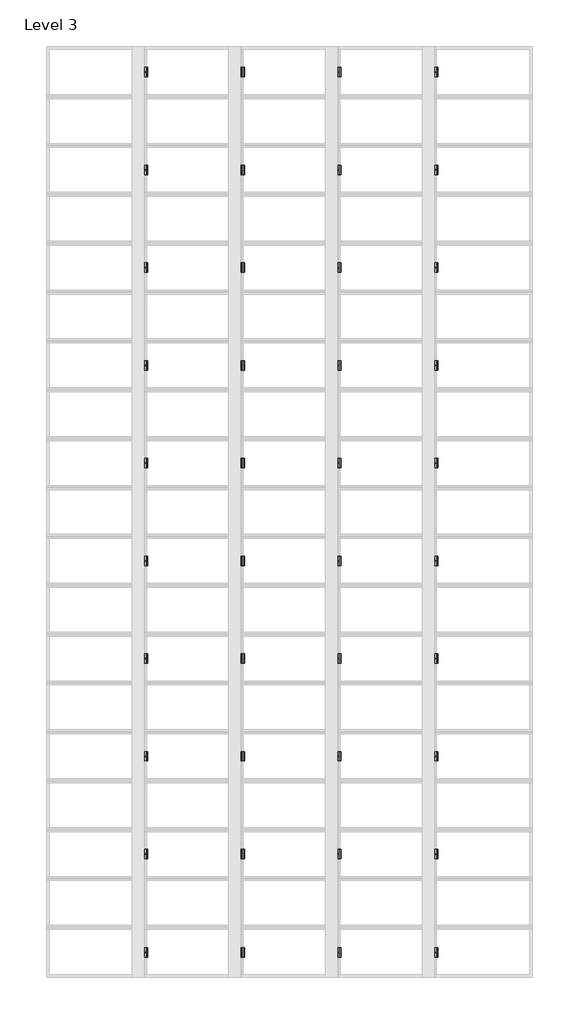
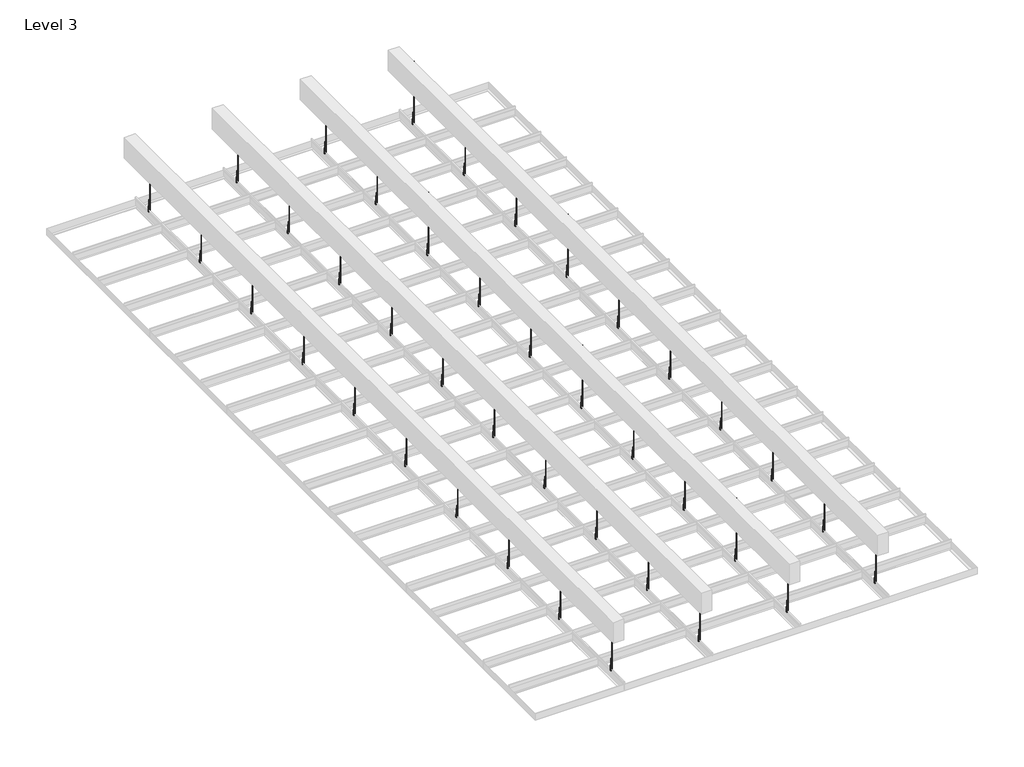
# One storey, part 2 of 2: 80 proxies.
"""IFC4 building model written with IfcOpenShell, lengths in millimetres."""

from ifc_helpers import new_model, si_unit, origin, place, context, project, spatial, transform, mapped, element, save
from components import generic_models_30e69ff4, generic_models_ea6e69d7, generic_models_2637090a, generic_models_7087057a, generic_models_22061ccc, generic_models_6631cd60, generic_models_b129b2ce, generic_models_5d799848, generic_models_c1631bf7, generic_models_b8af8917, generic_models_4601ddb1, generic_models_41f4955b, generic_models_f47540d4, generic_models_d7e25b7b, generic_models_15d2a3b0, generic_models_6ec0f59a, generic_models_a436a1e3, generic_models_0d2f1665, generic_models_3031afbb, generic_models_487557fa, generic_models_e8411314, generic_models_ef73581c, generic_models_94454468, generic_models_312ab789, generic_models_1e27622a, generic_models_7c0987e7, generic_models_7d2c6af9, generic_models_a9732f75, generic_models_f2a02704, generic_models_220f91b8, generic_models_c5d6954f, generic_models_84ba3c52, generic_models_ac5d71cc, generic_models_f1c45e2f, generic_models_49fdf278, generic_models_908b17a9, generic_models_a93aa4b5, generic_models_f5dd13b4, generic_models_6529b936, generic_models_776e6ab7, stud_1_stud_1_42a6b7a6, stud_10_stud_1_f9c7235b, stud_11_stud_1_e0a150c1, stud_12_stud_1_13a185cc, stud_13_stud_1_08e3559b, stud_14_stud_1_983f5c94, stud_15_stud_1_7fefd709, stud_16_stud_1_de291fa9, stud_17_stud_1_2ffbea10, stud_18_stud_1_0962ca89, stud_19_stud_1_fe36b6ed, stud_2_stud_1_6b914506, stud_20_stud_1_3f2360c5, stud_21_stud_1_4416dd86, stud_22_stud_1_c9112a40, stud_23_stud_1_22d17ae9, stud_24_stud_1_f3d8cce4, stud_25_stud_1_9dbdf446, stud_26_stud_1_3bea2599, stud_27_stud_1_aca50336, stud_28_stud_1_dbbdfaf3, stud_29_stud_1_5b82ace0, stud_3_stud_1_37971eae, stud_30_stud_1_ab73d0b4, stud_31_stud_1_9c334b2f, stud_32_stud_1_0430b82f, stud_33_stud_1_54817578, stud_34_stud_1_58c9755f, stud_35_stud_1_98c25c34, stud_36_stud_1_ed0e4c24, stud_37_stud_1_0b9a7b89, stud_38_stud_1_47fd398a, stud_39_stud_1_f72afb3a, stud_4_stud_1_5cc35882, stud_40_stud_1_60232da7, stud_5_stud_1_151b5730, stud_6_stud_1_164642b2, stud_7_stud_1_3cf8c35f, stud_8_stud_1_bdf7d431, stud_9_stud_1_8950ac6e

model = new_model("IFC4")

# Units and contexts
model_context = context("Model", 3, world=origin())
ifc_project = project(units=[si_unit("LENGTHUNIT", "METRE", prefix="MILLI")], contexts=[model_context])

# Site, building, storey
site = spatial("IfcSite", under=ifc_project)
building = spatial("IfcBuilding", under=site)
storey = spatial("IfcBuildingStorey", under=building, Name="Level 3", Elevation=3355.6966054)

# Proxies
placement = place(None, origin())
generic_models_shape = generic_models_30e69ff4(model_context)
element("IfcBuildingElementProxy", 1, Name="Mechanical Fittings & Accessories19 : Mechanical Fittings & Accessories", ObjectType="Mechanical Fittings & Accessories19 : Mechanical Fittings & Accessories", at=placement, inside=storey, context=model_context, shape_type="MappedRepresentation", body=[
    mapped(generic_models_shape, transform((2133.6, -412.6507813, 0.0), x_axis=(1.0, 0.0, 0.0), y_axis=(0.0, 1.0, 0.0), z_axis=(0.0, 0.0, 1.0))),
])
generic_models_2_shape = generic_models_ea6e69d7(model_context)
element("IfcBuildingElementProxy", 2, Name="Mechanical Fittings & Accessories1 : Mechanical Fittings & Accessories", ObjectType="Mechanical Fittings & Accessories1 : Mechanical Fittings & Accessories", at=placement, inside=storey, context=model_context, shape_type="MappedRepresentation", body=[
    mapped(generic_models_2_shape, transform((2133.6, -412.6507813, 0.0), x_axis=(1.0, 0.0, 0.0), y_axis=(0.0, 1.0, 0.0), z_axis=(0.0, 0.0, 1.0))),
])
generic_models_3_shape = generic_models_2637090a(model_context)
element("IfcBuildingElementProxy", 3, Name="Mechanical Fittings & Accessories2 : Mechanical Fittings & Accessories", ObjectType="Mechanical Fittings & Accessories2 : Mechanical Fittings & Accessories", at=placement, inside=storey, context=model_context, shape_type="MappedRepresentation", body=[
    mapped(generic_models_3_shape, transform((2133.6, -412.6507813, 0.0), x_axis=(1.0, 0.0, 0.0), y_axis=(0.0, 1.0, 0.0), z_axis=(0.0, 0.0, 1.0))),
])
generic_models_4_shape = generic_models_7087057a(model_context)
element("IfcBuildingElementProxy", 4, Name="Mechanical Fittings & Accessories3 : Mechanical Fittings & Accessories", ObjectType="Mechanical Fittings & Accessories3 : Mechanical Fittings & Accessories", at=placement, inside=storey, context=model_context, shape_type="MappedRepresentation", body=[
    mapped(generic_models_4_shape, transform((2133.6, -412.6507813, 0.0), x_axis=(1.0, 0.0, 0.0), y_axis=(0.0, 1.0, 0.0), z_axis=(0.0, 0.0, 1.0))),
])
generic_models_5_shape = generic_models_22061ccc(model_context)
element("IfcBuildingElementProxy", 5, Name="Mechanical Fittings & Accessories4 : Mechanical Fittings & Accessories", ObjectType="Mechanical Fittings & Accessories4 : Mechanical Fittings & Accessories", at=placement, inside=storey, context=model_context, shape_type="MappedRepresentation", body=[
    mapped(generic_models_5_shape, transform((2133.6, -412.6507813, 0.0), x_axis=(1.0, 0.0, 0.0), y_axis=(0.0, 1.0, 0.0), z_axis=(0.0, 0.0, 1.0))),
])
generic_models_6_shape = generic_models_6631cd60(model_context)
element("IfcBuildingElementProxy", 6, Name="Mechanical Fittings & Accessories5 : Mechanical Fittings & Accessories", ObjectType="Mechanical Fittings & Accessories5 : Mechanical Fittings & Accessories", at=placement, inside=storey, context=model_context, shape_type="MappedRepresentation", body=[
    mapped(generic_models_6_shape, transform((2133.6, -412.6507813, 0.0), x_axis=(1.0, 0.0, 0.0), y_axis=(0.0, 1.0, 0.0), z_axis=(0.0, 0.0, 1.0))),
])
generic_models_7_shape = generic_models_b129b2ce(model_context)
element("IfcBuildingElementProxy", 7, Name="Mechanical Fittings & Accessories6 : Mechanical Fittings & Accessories", ObjectType="Mechanical Fittings & Accessories6 : Mechanical Fittings & Accessories", at=placement, inside=storey, context=model_context, shape_type="MappedRepresentation", body=[
    mapped(generic_models_7_shape, transform((2133.6, -412.6507813, 0.0), x_axis=(1.0, 0.0, 0.0), y_axis=(0.0, 1.0, 0.0), z_axis=(0.0, 0.0, 1.0))),
])
generic_models_8_shape = generic_models_5d799848(model_context)
element("IfcBuildingElementProxy", 8, Name="Mechanical Fittings & Accessories7 : Mechanical Fittings & Accessories", ObjectType="Mechanical Fittings & Accessories7 : Mechanical Fittings & Accessories", at=placement, inside=storey, context=model_context, shape_type="MappedRepresentation", body=[
    mapped(generic_models_8_shape, transform((2133.6, -412.6507813, 0.0), x_axis=(1.0, 0.0, 0.0), y_axis=(0.0, 1.0, 0.0), z_axis=(0.0, 0.0, 1.0))),
])
generic_models_9_shape = generic_models_c1631bf7(model_context)
element("IfcBuildingElementProxy", 9, Name="Mechanical Fittings & Accessories8 : Mechanical Fittings & Accessories", ObjectType="Mechanical Fittings & Accessories8 : Mechanical Fittings & Accessories", at=placement, inside=storey, context=model_context, shape_type="MappedRepresentation", body=[
    mapped(generic_models_9_shape, transform((2133.6, -412.6507813, 0.0), x_axis=(1.0, 0.0, 0.0), y_axis=(0.0, 1.0, 0.0), z_axis=(0.0, 0.0, 1.0))),
])
generic_models_10_shape = generic_models_b8af8917(model_context)
element("IfcBuildingElementProxy", 10, Name="Mechanical Fittings & Accessories9 : Mechanical Fittings & Accessories", ObjectType="Mechanical Fittings & Accessories9 : Mechanical Fittings & Accessories", at=placement, inside=storey, context=model_context, shape_type="MappedRepresentation", body=[
    mapped(generic_models_10_shape, transform((2133.6, -412.6507813, 0.0), x_axis=(1.0, 0.0, 0.0), y_axis=(0.0, 1.0, 0.0), z_axis=(0.0, 0.0, 1.0))),
])
generic_models_11_shape = generic_models_4601ddb1(model_context)
element("IfcBuildingElementProxy", 11, Name="Mechanical Fittings & Accessories10 : Mechanical Fittings & Accessories", ObjectType="Mechanical Fittings & Accessories10 : Mechanical Fittings & Accessories", at=placement, inside=storey, context=model_context, shape_type="MappedRepresentation", body=[
    mapped(generic_models_11_shape, transform((2133.6, -412.6507813, 0.0), x_axis=(1.0, 0.0, 0.0), y_axis=(0.0, 1.0, 0.0), z_axis=(0.0, 0.0, 1.0))),
])
generic_models_12_shape = generic_models_41f4955b(model_context)
element("IfcBuildingElementProxy", 12, Name="Mechanical Fittings & Accessories11 : Mechanical Fittings & Accessories", ObjectType="Mechanical Fittings & Accessories11 : Mechanical Fittings & Accessories", at=placement, inside=storey, context=model_context, shape_type="MappedRepresentation", body=[
    mapped(generic_models_12_shape, transform((2133.6, -412.6507813, 0.0), x_axis=(1.0, 0.0, 0.0), y_axis=(0.0, 1.0, 0.0), z_axis=(0.0, 0.0, 1.0))),
])
generic_models_13_shape = generic_models_f47540d4(model_context)
element("IfcBuildingElementProxy", 13, Name="Mechanical Fittings & Accessories12 : Mechanical Fittings & Accessories", ObjectType="Mechanical Fittings & Accessories12 : Mechanical Fittings & Accessories", at=placement, inside=storey, context=model_context, shape_type="MappedRepresentation", body=[
    mapped(generic_models_13_shape, transform((2133.6, -412.6507813, 0.0), x_axis=(1.0, 0.0, 0.0), y_axis=(0.0, 1.0, 0.0), z_axis=(0.0, 0.0, 1.0))),
])
generic_models_14_shape = generic_models_d7e25b7b(model_context)
element("IfcBuildingElementProxy", 14, Name="Mechanical Fittings & Accessories13 : Mechanical Fittings & Accessories", ObjectType="Mechanical Fittings & Accessories13 : Mechanical Fittings & Accessories", at=placement, inside=storey, context=model_context, shape_type="MappedRepresentation", body=[
    mapped(generic_models_14_shape, transform((2133.6, -412.6507813, 0.0), x_axis=(1.0, 0.0, 0.0), y_axis=(0.0, 1.0, 0.0), z_axis=(0.0, 0.0, 1.0))),
])
generic_models_15_shape = generic_models_15d2a3b0(model_context)
element("IfcBuildingElementProxy", 15, Name="Mechanical Fittings & Accessories14 : Mechanical Fittings & Accessories", ObjectType="Mechanical Fittings & Accessories14 : Mechanical Fittings & Accessories", at=placement, inside=storey, context=model_context, shape_type="MappedRepresentation", body=[
    mapped(generic_models_15_shape, transform((2133.6, -412.6507813, 0.0), x_axis=(1.0, 0.0, 0.0), y_axis=(0.0, 1.0, 0.0), z_axis=(0.0, 0.0, 1.0))),
])
generic_models_16_shape = generic_models_6ec0f59a(model_context)
element("IfcBuildingElementProxy", 16, Name="Mechanical Fittings & Accessories15 : Mechanical Fittings & Accessories", ObjectType="Mechanical Fittings & Accessories15 : Mechanical Fittings & Accessories", at=placement, inside=storey, context=model_context, shape_type="MappedRepresentation", body=[
    mapped(generic_models_16_shape, transform((2133.6, -412.6507813, 0.0), x_axis=(1.0, 0.0, 0.0), y_axis=(0.0, 1.0, 0.0), z_axis=(0.0, 0.0, 1.0))),
])
generic_models_17_shape = generic_models_a436a1e3(model_context)
element("IfcBuildingElementProxy", 17, Name="Mechanical Fittings & Accessories16 : Mechanical Fittings & Accessories", ObjectType="Mechanical Fittings & Accessories16 : Mechanical Fittings & Accessories", at=placement, inside=storey, context=model_context, shape_type="MappedRepresentation", body=[
    mapped(generic_models_17_shape, transform((2133.6, -412.6507813, 0.0), x_axis=(1.0, 0.0, 0.0), y_axis=(0.0, 1.0, 0.0), z_axis=(0.0, 0.0, 1.0))),
])
generic_models_18_shape = generic_models_0d2f1665(model_context)
element("IfcBuildingElementProxy", 18, Name="Mechanical Fittings & Accessories17 : Mechanical Fittings & Accessories", ObjectType="Mechanical Fittings & Accessories17 : Mechanical Fittings & Accessories", at=placement, inside=storey, context=model_context, shape_type="MappedRepresentation", body=[
    mapped(generic_models_18_shape, transform((2133.6, -412.6507813, 0.0), x_axis=(1.0, 0.0, 0.0), y_axis=(0.0, 1.0, 0.0), z_axis=(0.0, 0.0, 1.0))),
])
generic_models_19_shape = generic_models_3031afbb(model_context)
element("IfcBuildingElementProxy", 19, Name="Mechanical Fittings & Accessories18 : Mechanical Fittings & Accessories", ObjectType="Mechanical Fittings & Accessories18 : Mechanical Fittings & Accessories", at=placement, inside=storey, context=model_context, shape_type="MappedRepresentation", body=[
    mapped(generic_models_19_shape, transform((2133.6, -412.6507813, 0.0), x_axis=(1.0, 0.0, 0.0), y_axis=(0.0, 1.0, 0.0), z_axis=(0.0, 0.0, 1.0))),
])
generic_models_20_shape = generic_models_487557fa(model_context)
element("IfcBuildingElementProxy", 20, Name="Mechanical Fittings & Accessories20 : Mechanical Fittings & Accessories", ObjectType="Mechanical Fittings & Accessories20 : Mechanical Fittings & Accessories", at=placement, inside=storey, context=model_context, shape_type="MappedRepresentation", body=[
    mapped(generic_models_20_shape, transform((2133.6, -412.6507813, 0.0), x_axis=(1.0, 0.0, 0.0), y_axis=(0.0, 1.0, 0.0), z_axis=(0.0, 0.0, 1.0))),
])
generic_models_21_shape = generic_models_e8411314(model_context)
element("IfcBuildingElementProxy", 21, Name="Mechanical Fittings & Accessories21 : Mechanical Fittings & Accessories", ObjectType="Mechanical Fittings & Accessories21 : Mechanical Fittings & Accessories", at=placement, inside=storey, context=model_context, shape_type="MappedRepresentation", body=[
    mapped(generic_models_21_shape, transform((2133.6, -412.6507813, 0.0), x_axis=(1.0, 0.0, 0.0), y_axis=(0.0, 1.0, 0.0), z_axis=(0.0, 0.0, 1.0))),
])
generic_models_22_shape = generic_models_ef73581c(model_context)
element("IfcBuildingElementProxy", 22, Name="Mechanical Fittings & Accessories22 : Mechanical Fittings & Accessories", ObjectType="Mechanical Fittings & Accessories22 : Mechanical Fittings & Accessories", at=placement, inside=storey, context=model_context, shape_type="MappedRepresentation", body=[
    mapped(generic_models_22_shape, transform((2133.6, -412.6507813, 0.0), x_axis=(1.0, 0.0, 0.0), y_axis=(0.0, 1.0, 0.0), z_axis=(0.0, 0.0, 1.0))),
])
generic_models_23_shape = generic_models_94454468(model_context)
element("IfcBuildingElementProxy", 23, Name="Mechanical Fittings & Accessories23 : Mechanical Fittings & Accessories", ObjectType="Mechanical Fittings & Accessories23 : Mechanical Fittings & Accessories", at=placement, inside=storey, context=model_context, shape_type="MappedRepresentation", body=[
    mapped(generic_models_23_shape, transform((2133.6, -412.6507813, 0.0), x_axis=(1.0, 0.0, 0.0), y_axis=(0.0, 1.0, 0.0), z_axis=(0.0, 0.0, 1.0))),
])
generic_models_24_shape = generic_models_312ab789(model_context)
element("IfcBuildingElementProxy", 24, Name="Mechanical Fittings & Accessories24 : Mechanical Fittings & Accessories", ObjectType="Mechanical Fittings & Accessories24 : Mechanical Fittings & Accessories", at=placement, inside=storey, context=model_context, shape_type="MappedRepresentation", body=[
    mapped(generic_models_24_shape, transform((2133.6, -412.6507813, 0.0), x_axis=(1.0, 0.0, 0.0), y_axis=(0.0, 1.0, 0.0), z_axis=(0.0, 0.0, 1.0))),
])
generic_models_25_shape = generic_models_1e27622a(model_context)
element("IfcBuildingElementProxy", 25, Name="Mechanical Fittings & Accessories25 : Mechanical Fittings & Accessories", ObjectType="Mechanical Fittings & Accessories25 : Mechanical Fittings & Accessories", at=placement, inside=storey, context=model_context, shape_type="MappedRepresentation", body=[
    mapped(generic_models_25_shape, transform((2133.6, -412.6507813, 0.0), x_axis=(1.0, 0.0, 0.0), y_axis=(0.0, 1.0, 0.0), z_axis=(0.0, 0.0, 1.0))),
])
generic_models_26_shape = generic_models_7c0987e7(model_context)
element("IfcBuildingElementProxy", 26, Name="Mechanical Fittings & Accessories26 : Mechanical Fittings & Accessories", ObjectType="Mechanical Fittings & Accessories26 : Mechanical Fittings & Accessories", at=placement, inside=storey, context=model_context, shape_type="MappedRepresentation", body=[
    mapped(generic_models_26_shape, transform((2133.6, -412.6507813, 0.0), x_axis=(1.0, 0.0, 0.0), y_axis=(0.0, 1.0, 0.0), z_axis=(0.0, 0.0, 1.0))),
])
generic_models_27_shape = generic_models_7d2c6af9(model_context)
element("IfcBuildingElementProxy", 27, Name="Mechanical Fittings & Accessories27 : Mechanical Fittings & Accessories", ObjectType="Mechanical Fittings & Accessories27 : Mechanical Fittings & Accessories", at=placement, inside=storey, context=model_context, shape_type="MappedRepresentation", body=[
    mapped(generic_models_27_shape, transform((2133.6, -412.6507813, 0.0), x_axis=(1.0, 0.0, 0.0), y_axis=(0.0, 1.0, 0.0), z_axis=(0.0, 0.0, 1.0))),
])
generic_models_28_shape = generic_models_a9732f75(model_context)
element("IfcBuildingElementProxy", 28, Name="Mechanical Fittings & Accessories28 : Mechanical Fittings & Accessories", ObjectType="Mechanical Fittings & Accessories28 : Mechanical Fittings & Accessories", at=placement, inside=storey, context=model_context, shape_type="MappedRepresentation", body=[
    mapped(generic_models_28_shape, transform((2133.6, -412.6507813, 0.0), x_axis=(1.0, 0.0, 0.0), y_axis=(0.0, 1.0, 0.0), z_axis=(0.0, 0.0, 1.0))),
])
generic_models_29_shape = generic_models_f2a02704(model_context)
element("IfcBuildingElementProxy", 29, Name="Mechanical Fittings & Accessories29 : Mechanical Fittings & Accessories", ObjectType="Mechanical Fittings & Accessories29 : Mechanical Fittings & Accessories", at=placement, inside=storey, context=model_context, shape_type="MappedRepresentation", body=[
    mapped(generic_models_29_shape, transform((2133.6, -412.6507813, 0.0), x_axis=(1.0, 0.0, 0.0), y_axis=(0.0, 1.0, 0.0), z_axis=(0.0, 0.0, 1.0))),
])
generic_models_30_shape = generic_models_220f91b8(model_context)
element("IfcBuildingElementProxy", 30, Name="Mechanical Fittings & Accessories30 : Mechanical Fittings & Accessories", ObjectType="Mechanical Fittings & Accessories30 : Mechanical Fittings & Accessories", at=placement, inside=storey, context=model_context, shape_type="MappedRepresentation", body=[
    mapped(generic_models_30_shape, transform((2133.6, -412.6507813, 0.0), x_axis=(1.0, 0.0, 0.0), y_axis=(0.0, 1.0, 0.0), z_axis=(0.0, 0.0, 1.0))),
])
generic_models_31_shape = generic_models_c5d6954f(model_context)
element("IfcBuildingElementProxy", 31, Name="Mechanical Fittings & Accessories31 : Mechanical Fittings & Accessories", ObjectType="Mechanical Fittings & Accessories31 : Mechanical Fittings & Accessories", at=placement, inside=storey, context=model_context, shape_type="MappedRepresentation", body=[
    mapped(generic_models_31_shape, transform((2133.6, -412.6507813, 0.0), x_axis=(1.0, 0.0, 0.0), y_axis=(0.0, 1.0, 0.0), z_axis=(0.0, 0.0, 1.0))),
])
generic_models_32_shape = generic_models_84ba3c52(model_context)
element("IfcBuildingElementProxy", 32, Name="Mechanical Fittings & Accessories32 : Mechanical Fittings & Accessories", ObjectType="Mechanical Fittings & Accessories32 : Mechanical Fittings & Accessories", at=placement, inside=storey, context=model_context, shape_type="MappedRepresentation", body=[
    mapped(generic_models_32_shape, transform((2133.6, -412.6507813, 0.0), x_axis=(1.0, 0.0, 0.0), y_axis=(0.0, 1.0, 0.0), z_axis=(0.0, 0.0, 1.0))),
])
generic_models_33_shape = generic_models_ac5d71cc(model_context)
element("IfcBuildingElementProxy", 33, Name="Mechanical Fittings & Accessories33 : Mechanical Fittings & Accessories", ObjectType="Mechanical Fittings & Accessories33 : Mechanical Fittings & Accessories", at=placement, inside=storey, context=model_context, shape_type="MappedRepresentation", body=[
    mapped(generic_models_33_shape, transform((2133.6, -412.6507813, 0.0), x_axis=(1.0, 0.0, 0.0), y_axis=(0.0, 1.0, 0.0), z_axis=(0.0, 0.0, 1.0))),
])
generic_models_34_shape = generic_models_f1c45e2f(model_context)
element("IfcBuildingElementProxy", 34, Name="Mechanical Fittings & Accessories34 : Mechanical Fittings & Accessories", ObjectType="Mechanical Fittings & Accessories34 : Mechanical Fittings & Accessories", at=placement, inside=storey, context=model_context, shape_type="MappedRepresentation", body=[
    mapped(generic_models_34_shape, transform((2133.6, -412.6507813, 0.0), x_axis=(1.0, 0.0, 0.0), y_axis=(0.0, 1.0, 0.0), z_axis=(0.0, 0.0, 1.0))),
])
generic_models_35_shape = generic_models_49fdf278(model_context)
element("IfcBuildingElementProxy", 35, Name="Mechanical Fittings & Accessories35 : Mechanical Fittings & Accessories", ObjectType="Mechanical Fittings & Accessories35 : Mechanical Fittings & Accessories", at=placement, inside=storey, context=model_context, shape_type="MappedRepresentation", body=[
    mapped(generic_models_35_shape, transform((2133.6, -412.6507813, 0.0), x_axis=(1.0, 0.0, 0.0), y_axis=(0.0, 1.0, 0.0), z_axis=(0.0, 0.0, 1.0))),
])
generic_models_36_shape = generic_models_908b17a9(model_context)
element("IfcBuildingElementProxy", 36, Name="Mechanical Fittings & Accessories36 : Mechanical Fittings & Accessories", ObjectType="Mechanical Fittings & Accessories36 : Mechanical Fittings & Accessories", at=placement, inside=storey, context=model_context, shape_type="MappedRepresentation", body=[
    mapped(generic_models_36_shape, transform((2133.6, -412.6507813, 0.0), x_axis=(1.0, 0.0, 0.0), y_axis=(0.0, 1.0, 0.0), z_axis=(0.0, 0.0, 1.0))),
])
generic_models_37_shape = generic_models_a93aa4b5(model_context)
element("IfcBuildingElementProxy", 37, Name="Mechanical Fittings & Accessories37 : Mechanical Fittings & Accessories", ObjectType="Mechanical Fittings & Accessories37 : Mechanical Fittings & Accessories", at=placement, inside=storey, context=model_context, shape_type="MappedRepresentation", body=[
    mapped(generic_models_37_shape, transform((2133.6, -412.6507813, 0.0), x_axis=(1.0, 0.0, 0.0), y_axis=(0.0, 1.0, 0.0), z_axis=(0.0, 0.0, 1.0))),
])
generic_models_38_shape = generic_models_f5dd13b4(model_context)
element("IfcBuildingElementProxy", 38, Name="Mechanical Fittings & Accessories38 : Mechanical Fittings & Accessories", ObjectType="Mechanical Fittings & Accessories38 : Mechanical Fittings & Accessories", at=placement, inside=storey, context=model_context, shape_type="MappedRepresentation", body=[
    mapped(generic_models_38_shape, transform((2133.6, -412.6507813, 0.0), x_axis=(1.0, 0.0, 0.0), y_axis=(0.0, 1.0, 0.0), z_axis=(0.0, 0.0, 1.0))),
])
generic_models_39_shape = generic_models_6529b936(model_context)
element("IfcBuildingElementProxy", 39, Name="Mechanical Fittings & Accessories39 : Mechanical Fittings & Accessories", ObjectType="Mechanical Fittings & Accessories39 : Mechanical Fittings & Accessories", at=placement, inside=storey, context=model_context, shape_type="MappedRepresentation", body=[
    mapped(generic_models_39_shape, transform((2133.6, -412.6507813, 0.0), x_axis=(1.0, 0.0, 0.0), y_axis=(0.0, 1.0, 0.0), z_axis=(0.0, 0.0, 1.0))),
])
generic_models_40_shape = generic_models_776e6ab7(model_context)
element("IfcBuildingElementProxy", 40, Name="Mechanical Fittings & Accessories40 : Mechanical Fittings & Accessories", ObjectType="Mechanical Fittings & Accessories40 : Mechanical Fittings & Accessories", at=placement, inside=storey, context=model_context, shape_type="MappedRepresentation", body=[
    mapped(generic_models_40_shape, transform((2133.6, -412.6507813, 0.0), x_axis=(1.0, 0.0, 0.0), y_axis=(0.0, 1.0, 0.0), z_axis=(0.0, 0.0, 1.0))),
])
stud_1_stud_1_shape = stud_1_stud_1_42a6b7a6(model_context)
element("IfcBuildingElementProxy", 41, Name="Stud 1 : Stud 1", ObjectType="Stud 1 : Stud 1", at=placement, inside=storey, context=model_context, shape_type="MappedRepresentation", body=[
    mapped(stud_1_stud_1_shape, transform((2133.6, -412.6507813, 0.0), x_axis=(1.0, 0.0, 0.0), y_axis=(0.0, 1.0, 0.0), z_axis=(0.0, 0.0, 1.0))),
])
stud_10_stud_1_shape = stud_10_stud_1_f9c7235b(model_context)
element("IfcBuildingElementProxy", 42, Name="Stud 10 : Stud 1", ObjectType="Stud 10 : Stud 1", at=placement, inside=storey, context=model_context, shape_type="MappedRepresentation", body=[
    mapped(stud_10_stud_1_shape, transform((2133.6, -412.6507813, 0.0), x_axis=(1.0, 0.0, 0.0), y_axis=(0.0, 1.0, 0.0), z_axis=(0.0, 0.0, 1.0))),
])
stud_11_stud_1_shape = stud_11_stud_1_e0a150c1(model_context)
element("IfcBuildingElementProxy", 43, Name="Stud 11 : Stud 1", ObjectType="Stud 11 : Stud 1", at=placement, inside=storey, context=model_context, shape_type="MappedRepresentation", body=[
    mapped(stud_11_stud_1_shape, transform((2133.6, -412.6507813, 0.0), x_axis=(1.0, 0.0, 0.0), y_axis=(0.0, 1.0, 0.0), z_axis=(0.0, 0.0, 1.0))),
])
stud_12_stud_1_shape = stud_12_stud_1_13a185cc(model_context)
element("IfcBuildingElementProxy", 44, Name="Stud 12 : Stud 1", ObjectType="Stud 12 : Stud 1", at=placement, inside=storey, context=model_context, shape_type="MappedRepresentation", body=[
    mapped(stud_12_stud_1_shape, transform((2133.6, -412.6507813, 0.0), x_axis=(1.0, 0.0, 0.0), y_axis=(0.0, 1.0, 0.0), z_axis=(0.0, 0.0, 1.0))),
])
stud_13_stud_1_shape = stud_13_stud_1_08e3559b(model_context)
element("IfcBuildingElementProxy", 45, Name="Stud 13 : Stud 1", ObjectType="Stud 13 : Stud 1", at=placement, inside=storey, context=model_context, shape_type="MappedRepresentation", body=[
    mapped(stud_13_stud_1_shape, transform((2133.6, -412.6507813, 0.0), x_axis=(1.0, 0.0, 0.0), y_axis=(0.0, 1.0, 0.0), z_axis=(0.0, 0.0, 1.0))),
])
stud_14_stud_1_shape = stud_14_stud_1_983f5c94(model_context)
element("IfcBuildingElementProxy", 46, Name="Stud 14 : Stud 1", ObjectType="Stud 14 : Stud 1", at=placement, inside=storey, context=model_context, shape_type="MappedRepresentation", body=[
    mapped(stud_14_stud_1_shape, transform((2133.6, -412.6507813, 0.0), x_axis=(1.0, 0.0, 0.0), y_axis=(0.0, 1.0, 0.0), z_axis=(0.0, 0.0, 1.0))),
])
stud_15_stud_1_shape = stud_15_stud_1_7fefd709(model_context)
element("IfcBuildingElementProxy", 47, Name="Stud 15 : Stud 1", ObjectType="Stud 15 : Stud 1", at=placement, inside=storey, context=model_context, shape_type="MappedRepresentation", body=[
    mapped(stud_15_stud_1_shape, transform((2133.6, -412.6507813, 0.0), x_axis=(1.0, 0.0, 0.0), y_axis=(0.0, 1.0, 0.0), z_axis=(0.0, 0.0, 1.0))),
])
stud_16_stud_1_shape = stud_16_stud_1_de291fa9(model_context)
element("IfcBuildingElementProxy", 48, Name="Stud 16 : Stud 1", ObjectType="Stud 16 : Stud 1", at=placement, inside=storey, context=model_context, shape_type="MappedRepresentation", body=[
    mapped(stud_16_stud_1_shape, transform((2133.6, -412.6507813, 0.0), x_axis=(1.0, 0.0, 0.0), y_axis=(0.0, 1.0, 0.0), z_axis=(0.0, 0.0, 1.0))),
])
stud_17_stud_1_shape = stud_17_stud_1_2ffbea10(model_context)
element("IfcBuildingElementProxy", 49, Name="Stud 17 : Stud 1", ObjectType="Stud 17 : Stud 1", at=placement, inside=storey, context=model_context, shape_type="MappedRepresentation", body=[
    mapped(stud_17_stud_1_shape, transform((2133.6, -412.6507813, 0.0), x_axis=(1.0, 0.0, 0.0), y_axis=(0.0, 1.0, 0.0), z_axis=(0.0, 0.0, 1.0))),
])
stud_18_stud_1_shape = stud_18_stud_1_0962ca89(model_context)
element("IfcBuildingElementProxy", 50, Name="Stud 18 : Stud 1", ObjectType="Stud 18 : Stud 1", at=placement, inside=storey, context=model_context, shape_type="MappedRepresentation", body=[
    mapped(stud_18_stud_1_shape, transform((2133.6, -412.6507813, 0.0), x_axis=(1.0, 0.0, 0.0), y_axis=(0.0, 1.0, 0.0), z_axis=(0.0, 0.0, 1.0))),
])
stud_19_stud_1_shape = stud_19_stud_1_fe36b6ed(model_context)
element("IfcBuildingElementProxy", 51, Name="Stud 19 : Stud 1", ObjectType="Stud 19 : Stud 1", at=placement, inside=storey, context=model_context, shape_type="MappedRepresentation", body=[
    mapped(stud_19_stud_1_shape, transform((2133.6, -412.6507813, 0.0), x_axis=(1.0, 0.0, 0.0), y_axis=(0.0, 1.0, 0.0), z_axis=(0.0, 0.0, 1.0))),
])
stud_2_stud_1_shape = stud_2_stud_1_6b914506(model_context)
element("IfcBuildingElementProxy", 52, Name="Stud 2 : Stud 1", ObjectType="Stud 2 : Stud 1", at=placement, inside=storey, context=model_context, shape_type="MappedRepresentation", body=[
    mapped(stud_2_stud_1_shape, transform((2133.6, -412.6507813, 0.0), x_axis=(1.0, 0.0, 0.0), y_axis=(0.0, 1.0, 0.0), z_axis=(0.0, 0.0, 1.0))),
])
stud_20_stud_1_shape = stud_20_stud_1_3f2360c5(model_context)
element("IfcBuildingElementProxy", 53, Name="Stud 20 : Stud 1", ObjectType="Stud 20 : Stud 1", at=placement, inside=storey, context=model_context, shape_type="MappedRepresentation", body=[
    mapped(stud_20_stud_1_shape, transform((2133.6, -412.6507813, 0.0), x_axis=(1.0, 0.0, 0.0), y_axis=(0.0, 1.0, 0.0), z_axis=(0.0, 0.0, 1.0))),
])
stud_21_stud_1_shape = stud_21_stud_1_4416dd86(model_context)
element("IfcBuildingElementProxy", 54, Name="Stud 21 : Stud 1", ObjectType="Stud 21 : Stud 1", at=placement, inside=storey, context=model_context, shape_type="MappedRepresentation", body=[
    mapped(stud_21_stud_1_shape, transform((2133.6, -412.6507813, 0.0), x_axis=(1.0, 0.0, 0.0), y_axis=(0.0, 1.0, 0.0), z_axis=(0.0, 0.0, 1.0))),
])
stud_22_stud_1_shape = stud_22_stud_1_c9112a40(model_context)
element("IfcBuildingElementProxy", 55, Name="Stud 22 : Stud 1", ObjectType="Stud 22 : Stud 1", at=placement, inside=storey, context=model_context, shape_type="MappedRepresentation", body=[
    mapped(stud_22_stud_1_shape, transform((2133.6, -412.6507813, 0.0), x_axis=(1.0, 0.0, 0.0), y_axis=(0.0, 1.0, 0.0), z_axis=(0.0, 0.0, 1.0))),
])
stud_23_stud_1_shape = stud_23_stud_1_22d17ae9(model_context)
element("IfcBuildingElementProxy", 56, Name="Stud 23 : Stud 1", ObjectType="Stud 23 : Stud 1", at=placement, inside=storey, context=model_context, shape_type="MappedRepresentation", body=[
    mapped(stud_23_stud_1_shape, transform((2133.6, -412.6507813, 0.0), x_axis=(1.0, 0.0, 0.0), y_axis=(0.0, 1.0, 0.0), z_axis=(0.0, 0.0, 1.0))),
])
stud_24_stud_1_shape = stud_24_stud_1_f3d8cce4(model_context)
element("IfcBuildingElementProxy", 57, Name="Stud 24 : Stud 1", ObjectType="Stud 24 : Stud 1", at=placement, inside=storey, context=model_context, shape_type="MappedRepresentation", body=[
    mapped(stud_24_stud_1_shape, transform((2133.6, -412.6507813, 0.0), x_axis=(1.0, 0.0, 0.0), y_axis=(0.0, 1.0, 0.0), z_axis=(0.0, 0.0, 1.0))),
])
stud_25_stud_1_shape = stud_25_stud_1_9dbdf446(model_context)
element("IfcBuildingElementProxy", 58, Name="Stud 25 : Stud 1", ObjectType="Stud 25 : Stud 1", at=placement, inside=storey, context=model_context, shape_type="MappedRepresentation", body=[
    mapped(stud_25_stud_1_shape, transform((2133.6, -412.6507813, 0.0), x_axis=(1.0, 0.0, 0.0), y_axis=(0.0, 1.0, 0.0), z_axis=(0.0, 0.0, 1.0))),
])
stud_26_stud_1_shape = stud_26_stud_1_3bea2599(model_context)
element("IfcBuildingElementProxy", 59, Name="Stud 26 : Stud 1", ObjectType="Stud 26 : Stud 1", at=placement, inside=storey, context=model_context, shape_type="MappedRepresentation", body=[
    mapped(stud_26_stud_1_shape, transform((2133.6, -412.6507813, 0.0), x_axis=(1.0, 0.0, 0.0), y_axis=(0.0, 1.0, 0.0), z_axis=(0.0, 0.0, 1.0))),
])
stud_27_stud_1_shape = stud_27_stud_1_aca50336(model_context)
element("IfcBuildingElementProxy", 60, Name="Stud 27 : Stud 1", ObjectType="Stud 27 : Stud 1", at=placement, inside=storey, context=model_context, shape_type="MappedRepresentation", body=[
    mapped(stud_27_stud_1_shape, transform((2133.6, -412.6507813, 0.0), x_axis=(1.0, 0.0, 0.0), y_axis=(0.0, 1.0, 0.0), z_axis=(0.0, 0.0, 1.0))),
])
stud_28_stud_1_shape = stud_28_stud_1_dbbdfaf3(model_context)
element("IfcBuildingElementProxy", 61, Name="Stud 28 : Stud 1", ObjectType="Stud 28 : Stud 1", at=placement, inside=storey, context=model_context, shape_type="MappedRepresentation", body=[
    mapped(stud_28_stud_1_shape, transform((2133.6, -412.6507813, 0.0), x_axis=(1.0, 0.0, 0.0), y_axis=(0.0, 1.0, 0.0), z_axis=(0.0, 0.0, 1.0))),
])
stud_29_stud_1_shape = stud_29_stud_1_5b82ace0(model_context)
element("IfcBuildingElementProxy", 62, Name="Stud 29 : Stud 1", ObjectType="Stud 29 : Stud 1", at=placement, inside=storey, context=model_context, shape_type="MappedRepresentation", body=[
    mapped(stud_29_stud_1_shape, transform((2133.6, -412.6507813, 0.0), x_axis=(1.0, 0.0, 0.0), y_axis=(0.0, 1.0, 0.0), z_axis=(0.0, 0.0, 1.0))),
])
stud_3_stud_1_shape = stud_3_stud_1_37971eae(model_context)
element("IfcBuildingElementProxy", 63, Name="Stud 3 : Stud 1", ObjectType="Stud 3 : Stud 1", at=placement, inside=storey, context=model_context, shape_type="MappedRepresentation", body=[
    mapped(stud_3_stud_1_shape, transform((2133.6, -412.6507813, 0.0), x_axis=(1.0, 0.0, 0.0), y_axis=(0.0, 1.0, 0.0), z_axis=(0.0, 0.0, 1.0))),
])
stud_30_stud_1_shape = stud_30_stud_1_ab73d0b4(model_context)
element("IfcBuildingElementProxy", 64, Name="Stud 30 : Stud 1", ObjectType="Stud 30 : Stud 1", at=placement, inside=storey, context=model_context, shape_type="MappedRepresentation", body=[
    mapped(stud_30_stud_1_shape, transform((2133.6, -412.6507813, 0.0), x_axis=(1.0, 0.0, 0.0), y_axis=(0.0, 1.0, 0.0), z_axis=(0.0, 0.0, 1.0))),
])
stud_31_stud_1_shape = stud_31_stud_1_9c334b2f(model_context)
element("IfcBuildingElementProxy", 65, Name="Stud 31 : Stud 1", ObjectType="Stud 31 : Stud 1", at=placement, inside=storey, context=model_context, shape_type="MappedRepresentation", body=[
    mapped(stud_31_stud_1_shape, transform((2133.6, -412.6507813, 0.0), x_axis=(1.0, 0.0, 0.0), y_axis=(0.0, 1.0, 0.0), z_axis=(0.0, 0.0, 1.0))),
])
stud_32_stud_1_shape = stud_32_stud_1_0430b82f(model_context)
element("IfcBuildingElementProxy", 66, Name="Stud 32 : Stud 1", ObjectType="Stud 32 : Stud 1", at=placement, inside=storey, context=model_context, shape_type="MappedRepresentation", body=[
    mapped(stud_32_stud_1_shape, transform((2133.6, -412.6507813, 0.0), x_axis=(1.0, 0.0, 0.0), y_axis=(0.0, 1.0, 0.0), z_axis=(0.0, 0.0, 1.0))),
])
stud_33_stud_1_shape = stud_33_stud_1_54817578(model_context)
element("IfcBuildingElementProxy", 67, Name="Stud 33 : Stud 1", ObjectType="Stud 33 : Stud 1", at=placement, inside=storey, context=model_context, shape_type="MappedRepresentation", body=[
    mapped(stud_33_stud_1_shape, transform((2133.6, -412.6507813, 0.0), x_axis=(1.0, 0.0, 0.0), y_axis=(0.0, 1.0, 0.0), z_axis=(0.0, 0.0, 1.0))),
])
stud_34_stud_1_shape = stud_34_stud_1_58c9755f(model_context)
element("IfcBuildingElementProxy", 68, Name="Stud 34 : Stud 1", ObjectType="Stud 34 : Stud 1", at=placement, inside=storey, context=model_context, shape_type="MappedRepresentation", body=[
    mapped(stud_34_stud_1_shape, transform((2133.6, -412.6507813, 0.0), x_axis=(1.0, 0.0, 0.0), y_axis=(0.0, 1.0, 0.0), z_axis=(0.0, 0.0, 1.0))),
])
stud_35_stud_1_shape = stud_35_stud_1_98c25c34(model_context)
element("IfcBuildingElementProxy", 69, Name="Stud 35 : Stud 1", ObjectType="Stud 35 : Stud 1", at=placement, inside=storey, context=model_context, shape_type="MappedRepresentation", body=[
    mapped(stud_35_stud_1_shape, transform((2133.6, -412.6507813, 0.0), x_axis=(1.0, 0.0, 0.0), y_axis=(0.0, 1.0, 0.0), z_axis=(0.0, 0.0, 1.0))),
])
stud_36_stud_1_shape = stud_36_stud_1_ed0e4c24(model_context)
element("IfcBuildingElementProxy", 70, Name="Stud 36 : Stud 1", ObjectType="Stud 36 : Stud 1", at=placement, inside=storey, context=model_context, shape_type="MappedRepresentation", body=[
    mapped(stud_36_stud_1_shape, transform((2133.6, -412.6507813, 0.0), x_axis=(1.0, 0.0, 0.0), y_axis=(0.0, 1.0, 0.0), z_axis=(0.0, 0.0, 1.0))),
])
stud_37_stud_1_shape = stud_37_stud_1_0b9a7b89(model_context)
element("IfcBuildingElementProxy", 71, Name="Stud 37 : Stud 1", ObjectType="Stud 37 : Stud 1", at=placement, inside=storey, context=model_context, shape_type="MappedRepresentation", body=[
    mapped(stud_37_stud_1_shape, transform((2133.6, -412.6507813, 0.0), x_axis=(1.0, 0.0, 0.0), y_axis=(0.0, 1.0, 0.0), z_axis=(0.0, 0.0, 1.0))),
])
stud_38_stud_1_shape = stud_38_stud_1_47fd398a(model_context)
element("IfcBuildingElementProxy", 72, Name="Stud 38 : Stud 1", ObjectType="Stud 38 : Stud 1", at=placement, inside=storey, context=model_context, shape_type="MappedRepresentation", body=[
    mapped(stud_38_stud_1_shape, transform((2133.6, -412.6507813, 0.0), x_axis=(1.0, 0.0, 0.0), y_axis=(0.0, 1.0, 0.0), z_axis=(0.0, 0.0, 1.0))),
])
stud_39_stud_1_shape = stud_39_stud_1_f72afb3a(model_context)
element("IfcBuildingElementProxy", 73, Name="Stud 39 : Stud 1", ObjectType="Stud 39 : Stud 1", at=placement, inside=storey, context=model_context, shape_type="MappedRepresentation", body=[
    mapped(stud_39_stud_1_shape, transform((2133.6, -412.6507813, 0.0), x_axis=(1.0, 0.0, 0.0), y_axis=(0.0, 1.0, 0.0), z_axis=(0.0, 0.0, 1.0))),
])
stud_4_stud_1_shape = stud_4_stud_1_5cc35882(model_context)
element("IfcBuildingElementProxy", 74, Name="Stud 4 : Stud 1", ObjectType="Stud 4 : Stud 1", at=placement, inside=storey, context=model_context, shape_type="MappedRepresentation", body=[
    mapped(stud_4_stud_1_shape, transform((2133.6, -412.6507813, 0.0), x_axis=(1.0, 0.0, 0.0), y_axis=(0.0, 1.0, 0.0), z_axis=(0.0, 0.0, 1.0))),
])
stud_40_stud_1_shape = stud_40_stud_1_60232da7(model_context)
element("IfcBuildingElementProxy", 75, Name="Stud 40 : Stud 1", ObjectType="Stud 40 : Stud 1", at=placement, inside=storey, context=model_context, shape_type="MappedRepresentation", body=[
    mapped(stud_40_stud_1_shape, transform((2133.6, -412.6507813, 0.0), x_axis=(1.0, 0.0, 0.0), y_axis=(0.0, 1.0, 0.0), z_axis=(0.0, 0.0, 1.0))),
])
stud_5_stud_1_shape = stud_5_stud_1_151b5730(model_context)
element("IfcBuildingElementProxy", 76, Name="Stud 5 : Stud 1", ObjectType="Stud 5 : Stud 1", at=placement, inside=storey, context=model_context, shape_type="MappedRepresentation", body=[
    mapped(stud_5_stud_1_shape, transform((2133.6, -412.6507813, 0.0), x_axis=(1.0, 0.0, 0.0), y_axis=(0.0, 1.0, 0.0), z_axis=(0.0, 0.0, 1.0))),
])
stud_6_stud_1_shape = stud_6_stud_1_164642b2(model_context)
element("IfcBuildingElementProxy", 77, Name="Stud 6 : Stud 1", ObjectType="Stud 6 : Stud 1", at=placement, inside=storey, context=model_context, shape_type="MappedRepresentation", body=[
    mapped(stud_6_stud_1_shape, transform((2133.6, -412.6507813, 0.0), x_axis=(1.0, 0.0, 0.0), y_axis=(0.0, 1.0, 0.0), z_axis=(0.0, 0.0, 1.0))),
])
stud_7_stud_1_shape = stud_7_stud_1_3cf8c35f(model_context)
element("IfcBuildingElementProxy", 78, Name="Stud 7 : Stud 1", ObjectType="Stud 7 : Stud 1", at=placement, inside=storey, context=model_context, shape_type="MappedRepresentation", body=[
    mapped(stud_7_stud_1_shape, transform((2133.6, -412.6507813, 0.0), x_axis=(1.0, 0.0, 0.0), y_axis=(0.0, 1.0, 0.0), z_axis=(0.0, 0.0, 1.0))),
])
stud_8_stud_1_shape = stud_8_stud_1_bdf7d431(model_context)
element("IfcBuildingElementProxy", 79, Name="Stud 8 : Stud 1", ObjectType="Stud 8 : Stud 1", at=placement, inside=storey, context=model_context, shape_type="MappedRepresentation", body=[
    mapped(stud_8_stud_1_shape, transform((2133.6, -412.6507813, 0.0), x_axis=(1.0, 0.0, 0.0), y_axis=(0.0, 1.0, 0.0), z_axis=(0.0, 0.0, 1.0))),
])
stud_9_stud_1_shape = stud_9_stud_1_8950ac6e(model_context)
element("IfcBuildingElementProxy", 80, Name="Stud 9 : Stud 1", ObjectType="Stud 9 : Stud 1", at=placement, inside=storey, context=model_context, shape_type="MappedRepresentation", body=[
    mapped(stud_9_stud_1_shape, transform((2133.6, -412.6507813, 0.0), x_axis=(1.0, 0.0, 0.0), y_axis=(0.0, 1.0, 0.0), z_axis=(0.0, 0.0, 1.0))),
])

save(model, "model.ifc")
